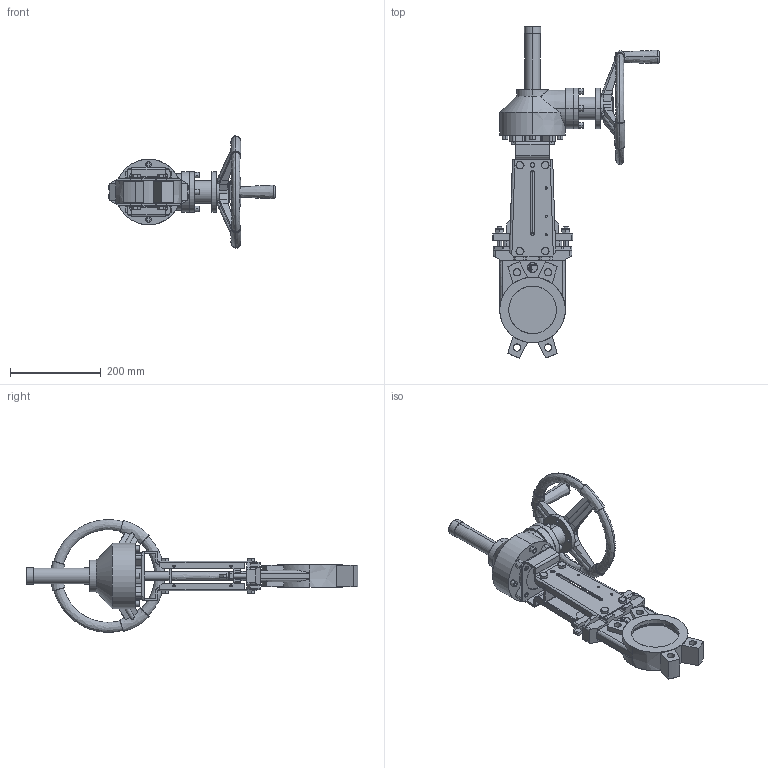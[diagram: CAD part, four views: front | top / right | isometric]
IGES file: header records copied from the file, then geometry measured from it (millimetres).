
Start section: SolidWorks IGES file using analytic representation for surfaces
Global section: file name: D:\part\3D Projects\VG-GEAR BOX ACTUATOR(DN50-DN6000\VG G DN100\VG G DN100.IGS; native system: SolidWorks 2009; preprocessor: SolidWorks 2009; author: zhixin.zheng; date: 100422.171224; units: millimetre
Bounding box: 369 x 733.66 x 248.85 mm (x, y, z)
Surface area: 537095.9 mm2 (no closed solid volume)
Topology: 0 solids, 0 shells, 960 faces, 10582 edges, 10578 vertices
Faces by surface type: bspline 561, revolution 399
